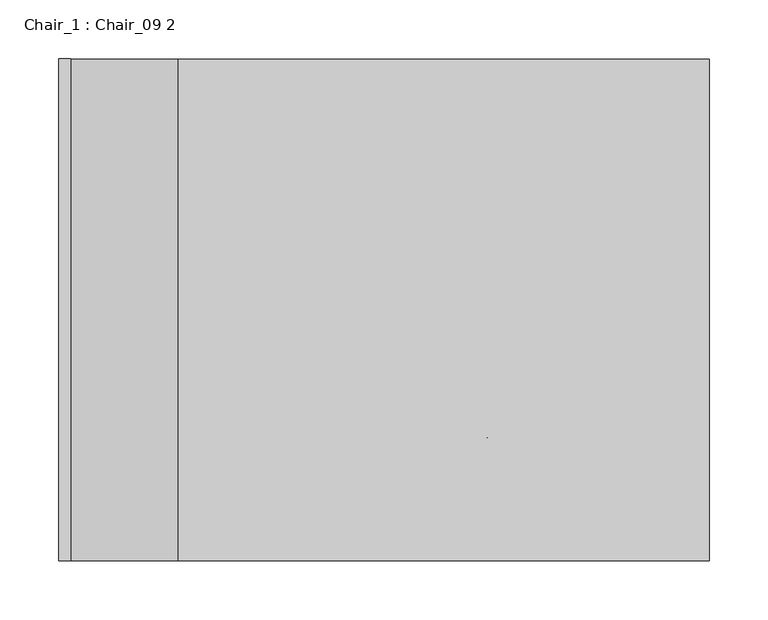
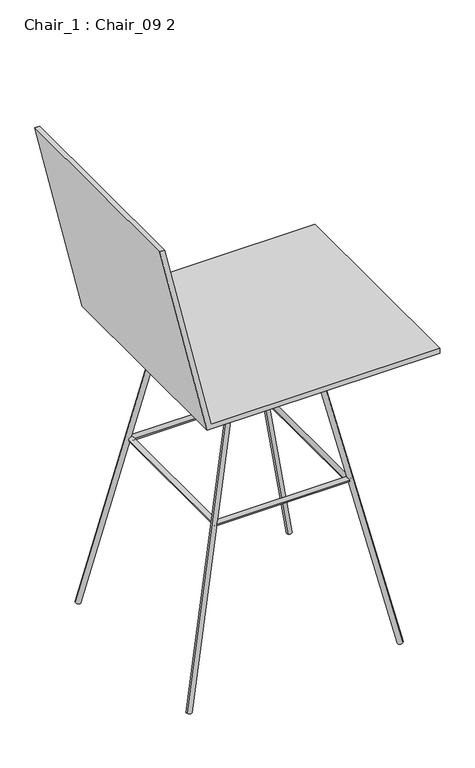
"""IFC4 building model written with IfcOpenShell, lengths in millimetres: furniture geometry, Chair_1 : Chair_09 2."""

from ifc_helpers import new_model, si_unit, point, frame, origin, origin_2d, place, context, project, spatial, polyline, circle_curve, ellipse_curve, trimmed, segment, composite_curve, outline, extrude, source, transform, mapped, element, save
from ifc_brep_helpers import cylinder_surface, advanced_brep


def chair_1_chair_09_2_e52de524(model_context):
    return source(origin(), model_context, "Body", "SolidModel", [
        advanced_brep(
        [(129.7972719, 142.9892029, 340.0), (139.7972719, 152.9892029, 340.0), (139.7972719, -147.0107971, 340.0), (129.7972719, -137.0107971, 340.0), (-130.2027281, -147.0107971, 340.0), (-120.2027281, -137.0107971, 340.0), (-130.2027281, 152.9892029, 340.0), (-120.2027281, 142.9892029, 340.0)],
        [
            (0, 1, ellipse_curve(frame((134.7972719, 147.9892029, 340.0), z_axis=(0.7071067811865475, -0.7071067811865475, 0.0), x_axis=(0.7071067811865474, 0.7071067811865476, 0.0)), 7.0710678, 5.0)),
            (1, 2),
            (2, 3, ellipse_curve(frame((134.7972719, -142.0107971, 340.0), z_axis=(0.7071067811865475, 0.7071067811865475, 0.0), x_axis=(-0.7071067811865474, 0.7071067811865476, 0.0)), 7.0710678, 5.0)),
            (3, 0),
            (1, 0, ellipse_curve(frame((134.7972719, 147.9892029, 340.0), z_axis=(0.7071067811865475, -0.7071067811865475, 0.0), x_axis=(0.7071067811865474, 0.7071067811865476, 0.0)), 7.0710678, 5.0)),
            (3, 2, ellipse_curve(frame((134.7972719, -142.0107971, 340.0), z_axis=(0.7071067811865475, 0.7071067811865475, 0.0), x_axis=(-0.7071067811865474, 0.7071067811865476, 0.0)), 7.0710678, 5.0)),
            (2, 4),
            (4, 5, ellipse_curve(frame((-125.2027281, -142.0107971, 340.0), z_axis=(0.7071067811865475, -0.7071067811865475, 0.0), x_axis=(0.7071067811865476, 0.7071067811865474, 0.0)), 7.0710678, 5.0)),
            (5, 3),
            (5, 4, ellipse_curve(frame((-125.2027281, -142.0107971, 340.0), z_axis=(0.7071067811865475, -0.7071067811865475, 0.0), x_axis=(0.7071067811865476, 0.7071067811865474, 0.0)), 7.0710678, 5.0)),
            (4, 6),
            (6, 7, ellipse_curve(frame((-125.2027281, 147.9892029, 340.0), z_axis=(-0.7071067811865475, -0.7071067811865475, 0.0), x_axis=(0.7071067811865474, -0.7071067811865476, 0.0)), 7.0710678, 5.0)),
            (7, 5),
            (7, 6, ellipse_curve(frame((-125.2027281, 147.9892029, 340.0), z_axis=(-0.7071067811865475, -0.7071067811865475, 0.0), x_axis=(0.7071067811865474, -0.7071067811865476, 0.0)), 7.0710678, 5.0)),
            (6, 1),
            (0, 7),
        ],
        [
            cylinder_surface(frame((134.7972719, 147.9892029, 340.0), z_axis=(0.0, 1.0, 0.0), x_axis=(-1.0, 0.0, 0.0)), 5.0),
            cylinder_surface(frame((134.7972719, -142.0107971, 340.0), z_axis=(1.0, 0.0, 0.0), x_axis=(0.0, 1.0, 0.0)), 5.0),
            cylinder_surface(frame((-125.2027281, -142.0107971, 340.0), z_axis=(0.0, -1.0, 0.0), x_axis=(1.0, 0.0, 0.0)), 5.0),
            cylinder_surface(frame((-125.2027281, 147.9892029, 340.0), z_axis=(-1.0, 0.0, 0.0), x_axis=(0.0, -1.0, 0.0)), 5.0),
        ],
        [
            (0, [[1, 2, 3, 4]]),
            (0, [[5, -4, 6, -2]]),
            (1, [[-3, 7, 8, 9]]),
            (1, [[-6, -9, 10, -7]]),
            (2, [[-8, 11, 12, 13]]),
            (2, [[-10, -13, 14, -11]]),
            (3, [[-12, 15, -1, 16]]),
            (3, [[-14, -16, -5, -15]]),
        ],
    ),
        extrude(outline(composite_curve([segment(trimmed(circle_curve(origin_2d(), 5.0), [point((0.0, 5.0))], [point((0.0, -5.0))], False, "CARTESIAN"), True, "CONTINUOUS"), segment(trimmed(circle_curve(origin_2d(), 5.0), [point((0.0, -5.0))], [point((0.0, 5.0))], False, "CARTESIAN"), True, "CONTINUOUS")], self_intersect=False)), frame((212.8326495, 191.9968514, 0.0), z_axis=(-0.20951050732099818, -0.12096094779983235, 0.9702957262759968), x_axis=(0.49999999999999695, -0.8660254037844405, 0.0)), (0.0, 0.0, 1.0), 613.0459946),
        extrude(outline(composite_curve([segment(trimmed(circle_curve(origin_2d(), 5.0), [point((0.0, -5.0))], [point((1e-07, 5.0))], False, "CARTESIAN"), True, "CONTINUOUS"), segment(trimmed(circle_curve(origin_2d(), 5.0), [point((1e-07, 5.0))], [point((0.0, -5.0))], False, "CARTESIAN"), True, "CONTINUOUS")], self_intersect=False)), frame((212.8326495, -186.1638764, 0.0), z_axis=(-0.20951050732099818, 0.12096094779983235, 0.9702957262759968), x_axis=(0.49999999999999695, 0.8660254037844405, 0.0)), (0.0, 0.0, 1.0), 613.0459946),
        extrude(outline(composite_curve([segment(trimmed(circle_curve(origin_2d(), 5.0), [point((0.0, -5.0))], [point((0.0, 5.0))], False, "CARTESIAN"), True, "CONTINUOUS"), segment(trimmed(circle_curve(origin_2d(), 5.0), [point((0.0, 5.0))], [point((0.0, -5.0))], False, "CARTESIAN"), True, "CONTINUOUS")], self_intersect=False)), frame((-202.7465554, 191.9968514, 0.0), z_axis=(0.20951050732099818, -0.12096094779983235, 0.9702957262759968), x_axis=(-0.49999999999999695, -0.8660254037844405, 0.0)), (0.0, 0.0, 1.0), 613.0459946),
        extrude(outline(composite_curve([segment(trimmed(circle_curve(origin_2d(), 5.0), [point((0.0, 5.0))], [point((0.0, -5.0000001))], False, "CARTESIAN"), True, "CONTINUOUS"), segment(trimmed(circle_curve(origin_2d(), 5.0), [point((0.0, -5.0000001))], [point((0.0, 5.0))], False, "CARTESIAN"), True, "CONTINUOUS")], self_intersect=False)), frame((-202.7465554, -186.1638764, 0.0), z_axis=(0.20951050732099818, 0.12096094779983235, 0.9702957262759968), x_axis=(-0.49999999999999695, 0.8660254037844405, 0.0)), (0.0, 0.0, 1.0), 613.0459946),
        extrude(outline(polyline([(594.8359085, 275.4911898), (604.8359085, 275.4911898), (604.8359085, -174.6969121), (998.1091319, -265.4911898), (998.1091319, -275.4911898), (594.8359085, -182.3882302), (594.8359085, 275.4911898)])), frame((0.0, -212.6044327, 0.0), z_axis=(0.0, 1.0, 0.0), x_axis=(0.0, 0.0, 1.0)), (0.0, 0.0, 1.0), 425.2088655),
    ])


if __name__ == "__main__":
    model = new_model("IFC4")
    model_context = context("Model", 3, world=origin())
    ifc_project = project(units=[si_unit("LENGTHUNIT", "METRE", prefix="MILLI")], contexts=[model_context])
    site = spatial("IfcSite", under=ifc_project)
    building = spatial("IfcBuilding", under=site)
    placement = place(None, origin())
    chair_1_chair_09_2_shape = chair_1_chair_09_2_e52de524(model_context)
    element("IfcFurniture", 1, ObjectType="Chair_1 : Chair_09 2", at=placement, inside=building, context=model_context, shape_type="MappedRepresentation", body=[
        mapped(chair_1_chair_09_2_shape, transform((0.0, 0.0, 0.0), x_axis=(1.0, 0.0, 0.0), y_axis=(0.0, 1.0, 0.0), z_axis=(0.0, 0.0, 1.0))),
    ])
    save(model, "model.ifc")
